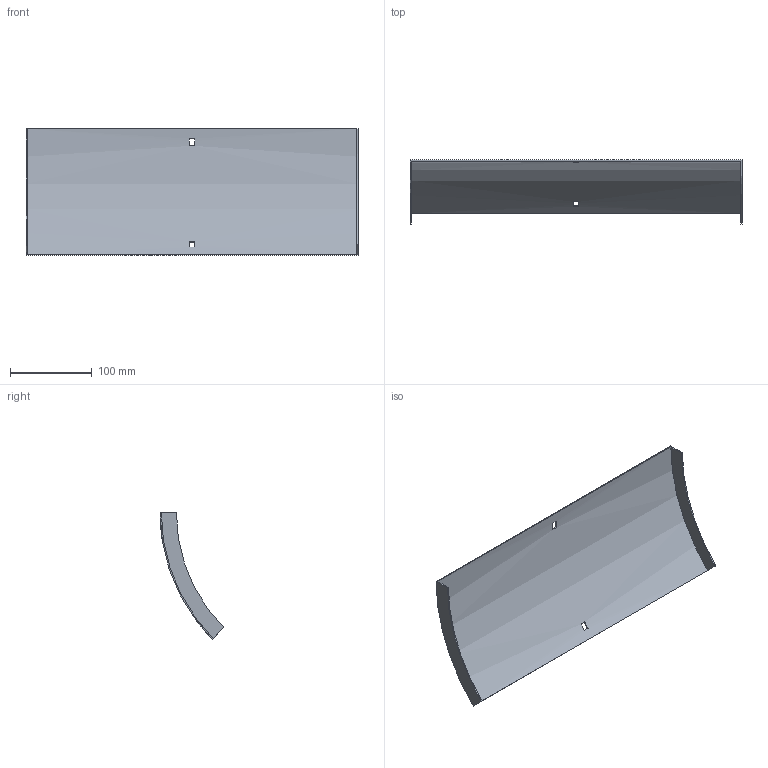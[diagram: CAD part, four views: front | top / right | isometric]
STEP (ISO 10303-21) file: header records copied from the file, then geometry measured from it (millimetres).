
FILE_DESCRIPTION (( 'STEP AP214' ), '1' );
FILE_NAME ('34N1J400.step', '2025-02-21T09:14:29', ( '' ), ( '' ), 'SwSTEP 2.0', 'SolidWorks 2023', '' );
FILE_SCHEMA (( 'AUTOMOTIVE_DESIGN' ));
Length unit declared in the file: millimetre
Products named in the file (1): 34N1J400
Bounding box: 407 x 78.29 x 154.86 mm (x, y, z)
Volume: 113549.2 mm3; surface area: 153294.9 mm2
Topology: 1 solids, 1 shells, 18 faces, 48 edges, 32 vertices
Faces by surface type: plane 14, cylinder 4
Entity records: 599 total; most frequent: DIRECTION 102, CARTESIAN_POINT 99, ORIENTED_EDGE 96, EDGE_CURVE 48, AXIS2_PLACEMENT_3D 35, VECTOR 32, LINE 32, VERTEX_POINT 32
